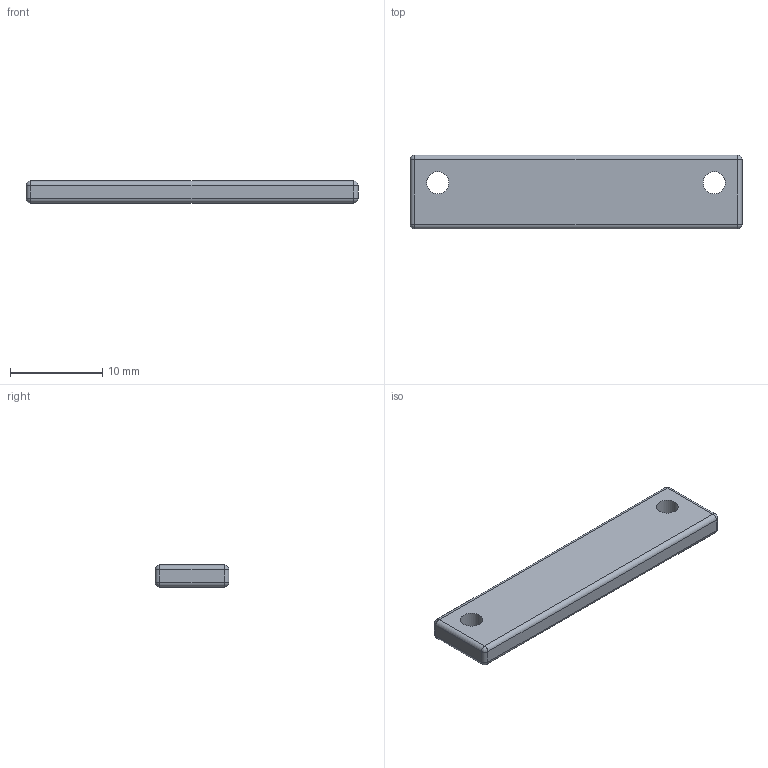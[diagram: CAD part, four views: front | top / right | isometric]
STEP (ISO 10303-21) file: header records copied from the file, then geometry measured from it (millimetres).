
FILE_DESCRIPTION(('Open CASCADE Model'),'2;1');
FILE_NAME('Open CASCADE Shape Model','2026-10-20T15:49:45',('Author'),( 'Open CASCADE'),'Open CASCADE STEP processor 7.8','Open CASCADE 7.8' ,'Unknown');
FILE_SCHEMA(('AUTOMOTIVE_DESIGN { 1 0 10303 214 1 1 1 1 }'));
Length unit declared in the file: millimetre
Products named in the file (1): Open CASCADE STEP translator 7.8 7
Bounding box: 36 x 8 x 2.4 mm (x, y, z)
Volume: 659.7 mm3; surface area: 765.2 mm2
Topology: 1 solids, 1 shells, 28 faces, 62 edges, 28 vertices
Faces by surface type: cylinder 14, sphere 8, plane 6
Full cylindrical faces by diameter (mm): 2.4 x2
Entity records: 1394 total; most frequent: CARTESIAN_POINT 275, DIRECTION 212, ORIENTED_EDGE 108, PCURVE 108, DEFINITIONAL_REPRESENTATION 108, LINE 98, VECTOR 98, AXIS2_PLACEMENT_3D 57
